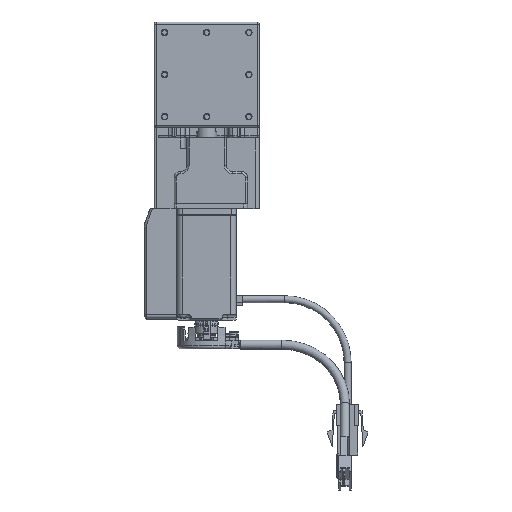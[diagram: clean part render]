
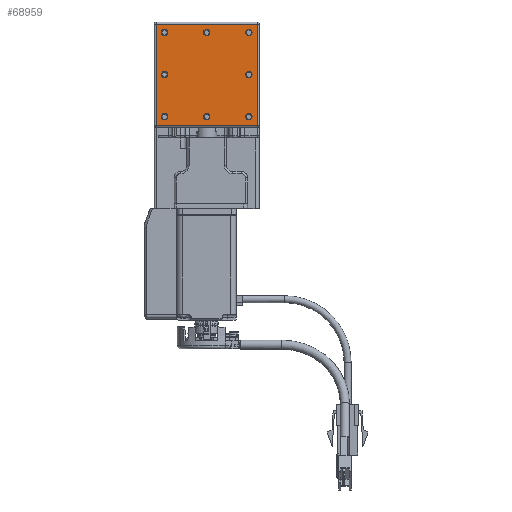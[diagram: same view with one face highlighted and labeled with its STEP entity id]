
A CAD part, top view. The second image highlights one B-rep face of the part: STEP entity #68959.
In plain terms, the highlighted planar face has unit normal (0, 0, 1) as drawn and (0, 1, 0) by its records, which use the part's own axes.
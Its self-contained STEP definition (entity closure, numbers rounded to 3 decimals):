
#971=CIRCLE('',#82790,1.525);
#974=CIRCLE('',#82795,1.525);
#977=CIRCLE('',#82800,1.525);
#980=CIRCLE('',#82805,1.525);
#983=CIRCLE('',#82810,1.525);
#986=CIRCLE('',#82815,1.525);
#989=CIRCLE('',#82820,1.525);
#992=CIRCLE('',#82825,1.525);
#4825=ORIENTED_EDGE('',*,*,#24281,.F.);
#4826=ORIENTED_EDGE('',*,*,#24284,.F.);
#4827=ORIENTED_EDGE('',*,*,#24287,.F.);
#4828=ORIENTED_EDGE('',*,*,#24290,.F.);
#4829=ORIENTED_EDGE('',*,*,#24293,.F.);
#4830=ORIENTED_EDGE('',*,*,#24296,.F.);
#4831=ORIENTED_EDGE('',*,*,#24299,.F.);
#4832=ORIENTED_EDGE('',*,*,#24302,.F.);
#4833=ORIENTED_EDGE('',*,*,#24465,.T.);
#4834=ORIENTED_EDGE('',*,*,#24466,.T.);
#4835=ORIENTED_EDGE('',*,*,#24467,.T.);
#4836=ORIENTED_EDGE('',*,*,#24468,.T.);
#24281=EDGE_CURVE('',#34237,#34237,#971,.T.);
#24284=EDGE_CURVE('',#34240,#34240,#974,.T.);
#24287=EDGE_CURVE('',#34243,#34243,#977,.T.);
#24290=EDGE_CURVE('',#34246,#34246,#980,.T.);
#24293=EDGE_CURVE('',#34249,#34249,#983,.T.);
#24296=EDGE_CURVE('',#34252,#34252,#986,.T.);
#24299=EDGE_CURVE('',#34255,#34255,#989,.T.);
#24302=EDGE_CURVE('',#34258,#34258,#992,.T.);
#24465=EDGE_CURVE('',#34383,#34384,#41198,.T.);
#24466=EDGE_CURVE('',#34384,#34385,#41199,.T.);
#24467=EDGE_CURVE('',#34385,#34386,#41200,.T.);
#24468=EDGE_CURVE('',#34386,#34383,#41201,.T.);
#34237=VERTEX_POINT('',#108297);
#34240=VERTEX_POINT('',#108305);
#34243=VERTEX_POINT('',#108313);
#34246=VERTEX_POINT('',#108321);
#34249=VERTEX_POINT('',#108329);
#34252=VERTEX_POINT('',#108337);
#34255=VERTEX_POINT('',#108345);
#34258=VERTEX_POINT('',#108353);
#34383=VERTEX_POINT('',#108682);
#34384=VERTEX_POINT('',#108683);
#34385=VERTEX_POINT('',#108685);
#34386=VERTEX_POINT('',#108687);
#41198=LINE('',#108681,#49251);
#41199=LINE('',#108684,#49252);
#41200=LINE('',#108686,#49253);
#41201=LINE('',#108688,#49254);
#49251=VECTOR('',#89476,1000.);
#49252=VECTOR('',#89477,1000.);
#49253=VECTOR('',#89478,1000.);
#49254=VECTOR('',#89479,1000.);
#57140=EDGE_LOOP('',(#4825));
#57141=EDGE_LOOP('',(#4826));
#57142=EDGE_LOOP('',(#4827));
#57143=EDGE_LOOP('',(#4828));
#57144=EDGE_LOOP('',(#4829));
#57145=EDGE_LOOP('',(#4830));
#57146=EDGE_LOOP('',(#4831));
#57147=EDGE_LOOP('',(#4832));
#57148=EDGE_LOOP('',(#4833,#4834,#4835,#4836));
#61677=FACE_BOUND('',#57140,.T.);
#61678=FACE_BOUND('',#57141,.T.);
#61679=FACE_BOUND('',#57142,.T.);
#61680=FACE_BOUND('',#57143,.T.);
#61681=FACE_BOUND('',#57144,.T.);
#61682=FACE_BOUND('',#57145,.T.);
#61683=FACE_BOUND('',#57146,.T.);
#61684=FACE_BOUND('',#57147,.T.);
#61685=FACE_BOUND('',#57148,.T.);
#66024=PLANE('',#82898);
#68959=ADVANCED_FACE('',(#61677,#61678,#61679,#61680,#61681,#61682,#61683,
#61684,#61685),#66024,.F.);
#82790=AXIS2_PLACEMENT_3D('',#108296,#89128,#89129);
#82795=AXIS2_PLACEMENT_3D('',#108304,#89138,#89139);
#82800=AXIS2_PLACEMENT_3D('',#108312,#89148,#89149);
#82805=AXIS2_PLACEMENT_3D('',#108320,#89158,#89159);
#82810=AXIS2_PLACEMENT_3D('',#108328,#89168,#89169);
#82815=AXIS2_PLACEMENT_3D('',#108336,#89178,#89179);
#82820=AXIS2_PLACEMENT_3D('',#108344,#89188,#89189);
#82825=AXIS2_PLACEMENT_3D('',#108352,#89198,#89199);
#82898=AXIS2_PLACEMENT_3D('',#108680,#89474,#89475);
#89128=DIRECTION('',(0.,1.,0.));
#89129=DIRECTION('',(0.,0.,-1.));
#89138=DIRECTION('',(0.,1.,0.));
#89139=DIRECTION('',(0.,0.,-1.));
#89148=DIRECTION('',(0.,1.,0.));
#89149=DIRECTION('',(0.,0.,-1.));
#89158=DIRECTION('',(0.,1.,0.));
#89159=DIRECTION('',(0.,0.,-1.));
#89168=DIRECTION('',(0.,1.,0.));
#89169=DIRECTION('',(0.,0.,-1.));
#89178=DIRECTION('',(0.,1.,0.));
#89179=DIRECTION('',(0.,0.,-1.));
#89188=DIRECTION('',(0.,1.,0.));
#89189=DIRECTION('',(0.,0.,-1.));
#89198=DIRECTION('',(0.,1.,0.));
#89199=DIRECTION('',(0.,0.,-1.));
#89474=DIRECTION('',(0.,-1.,0.));
#89475=DIRECTION('',(0.,0.,1.));
#89476=DIRECTION('',(0.,0.,1.));
#89477=DIRECTION('',(1.,0.,0.));
#89478=DIRECTION('',(0.,0.,-1.));
#89479=DIRECTION('',(-1.,0.,0.));
#108296=CARTESIAN_POINT('',(20.,30.,45.));
#108297=CARTESIAN_POINT('',(20.,30.,43.475));
#108304=CARTESIAN_POINT('',(20.,30.,25.));
#108305=CARTESIAN_POINT('',(20.,30.,23.475));
#108312=CARTESIAN_POINT('',(20.,30.,5.));
#108313=CARTESIAN_POINT('',(20.,30.,3.475));
#108320=CARTESIAN_POINT('',(-20.,30.,5.));
#108321=CARTESIAN_POINT('',(-20.,30.,3.475));
#108328=CARTESIAN_POINT('',(-20.,30.,25.));
#108329=CARTESIAN_POINT('',(-20.,30.,23.475));
#108336=CARTESIAN_POINT('',(-20.,30.,45.));
#108337=CARTESIAN_POINT('',(-20.,30.,43.475));
#108344=CARTESIAN_POINT('',(0.,30.,45.));
#108345=CARTESIAN_POINT('',(0.,30.,43.475));
#108352=CARTESIAN_POINT('',(0.,30.,5.));
#108353=CARTESIAN_POINT('',(0.,30.,3.475));
#108680=CARTESIAN_POINT('',(15.,30.,0.));
#108681=CARTESIAN_POINT('',(-24.,30.,0.));
#108682=CARTESIAN_POINT('',(-24.,30.,1.));
#108683=CARTESIAN_POINT('',(-24.,30.,49.));
#108684=CARTESIAN_POINT('',(25.,30.,49.));
#108685=CARTESIAN_POINT('',(24.,30.,49.));
#108686=CARTESIAN_POINT('',(24.,30.,0.));
#108687=CARTESIAN_POINT('',(24.,30.,1.));
#108688=CARTESIAN_POINT('',(15.,30.,1.));
